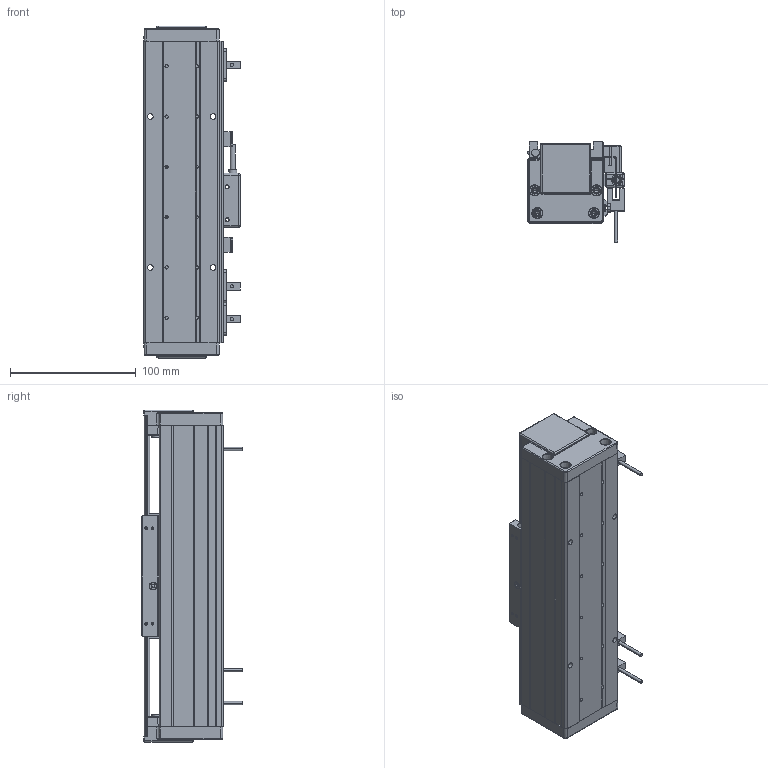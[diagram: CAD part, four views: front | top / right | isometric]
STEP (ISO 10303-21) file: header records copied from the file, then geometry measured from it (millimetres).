
FILE_DESCRIPTION (( 'STEP AP203' ), '1' );
FILE_NAME ('DA-A60-B1-T100-C010-0.2 眻盄萇儂.STEP', '2025-08-13T01:51:17', ( '' ), ( '' ), 'SwSTEP 2.0', 'SolidWorks 2019', '' );
FILE_SCHEMA (( 'CONFIG_CONTROL_DESIGN' ));
Length unit declared in the file: millimetre
Products named in the file (21): 复件 DA60-GT-T-00 底座钢轨^AU60-L 底座导轨; AU60-V 幗紩賑怢; 复件 DA-A60-GYP-DMT-00 光电感应片^DA-A60-B1-T-C010-0.2-N 直线电机(默认); 复件 XD-U-02  磁栅尺^DA-A60-B1-T-C010-0.2-N 直线电机; 复件 DA60-DMT-DTJ-00 读数头支架^DA-A60-B1-T-C010-0.2-N 直线电机; 复件 BAKM01-W030-C1-TP-0.2 直线电机动子^DA-A60-B1-T-C010-0.2-N 直线电机; 复件 DA60-DG-H-N-00 端盖^DA-A60-B1-T-C010-0.2-N 直线电机; DA60-B1-HT-B-03 賑雄怢啣; 复件 DA60-B1-GT-00 滑块钢轨^DA60-YT-B1-HT-B-01 一体化滑动台板; AU60-L 菁釱絳寢; 葩璃 PM-T45^DA-A60-B1-T-C010-0.2-N 眻盄萇儂; DA-A60-B1-T100-C010-0.2 眻盄萇儂; 葩璃 AKM01-W030-TRL^DA-A60-B1-T-C010-0.2-N 眻盄萇儂; 葩璃 DMT-010 1米m 0.2M^DA-A60-B1-T-C010-0.2-N 眻盄萇儂; 葩璃 DA60-HK-DP-01 結え^AU60-V 幗紩賑怢; DA60-YT-B1-HT-B-01 珨极趙賑雄怢啣; 复件 纯铜油杯 6x6mm^AU60-V 滚珠滑台; DA60-T-002-00  裔啣; 复件 DA60-XJ-00 橡胶挡块^DA-A60-B1-T-C010-0.2-N 直线电机; IU-AU60-L-00 菁釱(240); 复件 六角薄螺母 M3^DA-A60-B1-T-C010-0.2-N 直线电机(GB_FASTENER_NUT_STNAB M3-C)
Assembly tree (33 placements, depth 4):
  DA-A60-B1-T100-C010-0.2 眻盄萇儂
    AU60-L 菁釱絳寢
      IU-AU60-L-00 菁釱(240)
      复件 DA60-GT-T-00 底座钢轨^AU60-L 底座导轨  x2
    AU60-V 幗紩賑怢
      DA60-YT-B1-HT-B-01 珨极趙賑雄怢啣
        DA60-B1-HT-B-03 賑雄怢啣
        复件 DA60-B1-GT-00 滑块钢轨^DA60-YT-B1-HT-B-01 一体化滑动台板  x2
      葩璃 DA60-HK-DP-01 結え^AU60-V 幗紩賑怢  x2
      复件 纯铜油杯 6x6mm^AU60-V 滚珠滑台
    复件 DA-A60-GYP-DMT-00 光电感应片^DA-A60-B1-T-C010-0.2-N 直线电机(默认)  x2
    复件 DA60-DMT-DTJ-00 读数头支架^DA-A60-B1-T-C010-0.2-N 直线电机
    葩璃 DMT-010 1米m 0.2M^DA-A60-B1-T-C010-0.2-N 眻盄萇儂
    复件 BAKM01-W030-C1-TP-0.2 直线电机动子^DA-A60-B1-T-C010-0.2-N 直线电机
    复件 DA60-XJ-00 橡胶挡块^DA-A60-B1-T-C010-0.2-N 直线电机  x2
    复件 DA60-DG-H-N-00 端盖^DA-A60-B1-T-C010-0.2-N 直线电机  x2
    DA60-T-002-00  裔啣
    葩璃 AKM01-W030-TRL^DA-A60-B1-T-C010-0.2-N 眻盄萇儂
    葩璃 PM-T45^DA-A60-B1-T-C010-0.2-N 眻盄萇儂  x3
    复件 XD-U-02  磁栅尺^DA-A60-B1-T-C010-0.2-N 直线电机
    复件 六角薄螺母 M3^DA-A60-B1-T-C010-0.2-N 直线电机(GB_FASTENER_NUT_STNAB M3-C)  x6
Bounding box: 76.95 x 80 x 264 mm (x, y, z)
Volume: 651206.1 mm3; surface area: 248650.1 mm2
Topology: 35 solids, 37 shells, 2565 faces, 6344 edges, 3785 vertices
Faces by surface type: cylinder 900, plane 831, bspline 577, cone 248, torus 8, sphere 1
Entity records: 58897 total; most frequent: CARTESIAN_POINT 19456, ORIENTED_EDGE 7944, DIRECTION 7365, EDGE_CURVE 3972, AXIS2_PLACEMENT_3D 2664, VERTEX_POINT 2456, LINE 2037, VECTOR 2037
